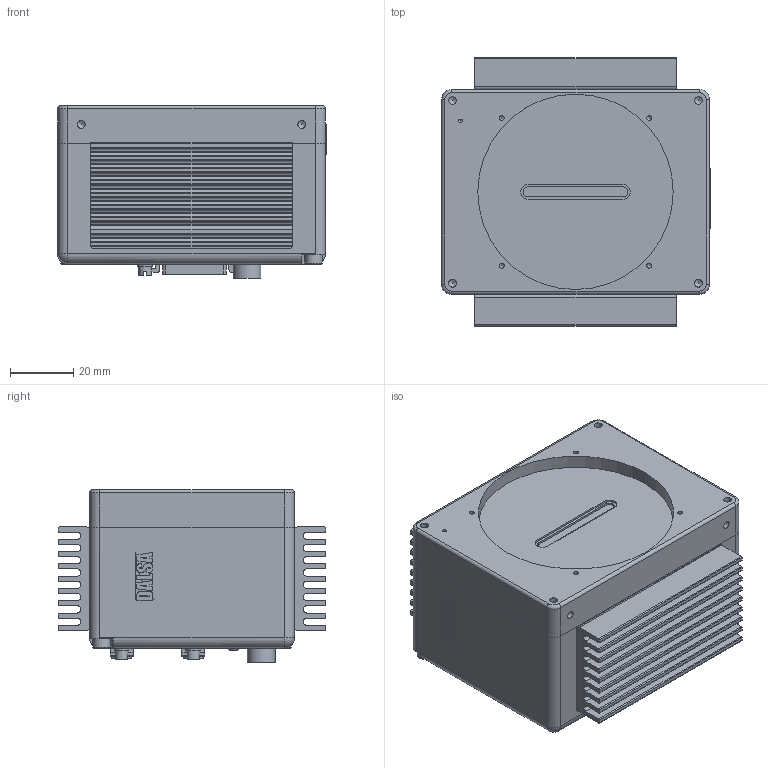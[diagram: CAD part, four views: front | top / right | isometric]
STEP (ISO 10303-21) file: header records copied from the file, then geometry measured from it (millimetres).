
FILE_DESCRIPTION((''),'2;1');
FILE_NAME('J:\MECH_ENG\PROJECTS\White Onyx\White Onyx-4K4Tap\Camera 3D models\HS-40-04K40-00-R-Req98738-forStep.stp','2009-04-02T17:04:16',('ola'),(''),'Autodesk Inventor 2009','Autodesk Inventor 2009','');
FILE_SCHEMA(('AUTOMOTIVE_DESIGN { 1 0 10303 214 1 1 1 1 }'));
Length unit declared in the file: millimetre
Products named in the file (12): HS-40-04K40-00-R-Req98738-forStep; ISO 4762  (Regular Thread) M3 x 30; M2.5-MDR-screw; Calibration Sticker; White Onyx 4K4Tap-Heatsink; Bivar PLP2-250; White Onyx 4K4Tap - Back Cover (Painting & Lettering); serial number sticker-White Onyx 4k4; White Onyx 4K4Tap - Front Plate; Capricorn Sensor Window - 4K4Tap; HR10A-7R-6SB Hirosi; MDR-26
Assembly tree (16 placements, depth 2):
  HS-40-04K40-00-R-Req98738-forStep
    ISO 4762  (Regular Thread) M3 x 30  x2
    M2.5-MDR-screw  x4
    Calibration Sticker
    White Onyx 4K4Tap-Heatsink
    Bivar PLP2-250
    White Onyx 4K4Tap - Back Cover (Painting & Lettering)
    serial number sticker-White Onyx 4k4
    White Onyx 4K4Tap - Front Plate
    Capricorn Sensor Window - 4K4Tap
    HR10A-7R-6SB Hirosi
    MDR-26  x2
Bounding box: 85.32 x 85 x 54.9 mm (x, y, z)
Volume: 118064.2 mm3; surface area: 92380.6 mm2
Topology: 16 solids, 16 shells, 3311 faces, 8789 edges, 5847 vertices
Faces by surface type: plane 2205, bspline 812, cylinder 269, cone 16, torus 7, sphere 2
Full cylindrical faces by diameter (mm): 0.5 x6, 0.8 x6, 2.36 x4, 2.459 x2, 2.8 x1, 3 x2, 4.04 x4, 4.72 x4, 5.5 x3, 7.3 x1, 7.8 x1, 8.85 x1, 11 x1, 62 x1
Entity records: 106009 total; most frequent: CARTESIAN_POINT 30729, ORIENTED_EDGE 16756, DIRECTION 12443, EDGE_CURVE 8378, VECTOR 6317, LINE 6317, VERTEX_POINT 5620, EDGE_LOOP 3668
